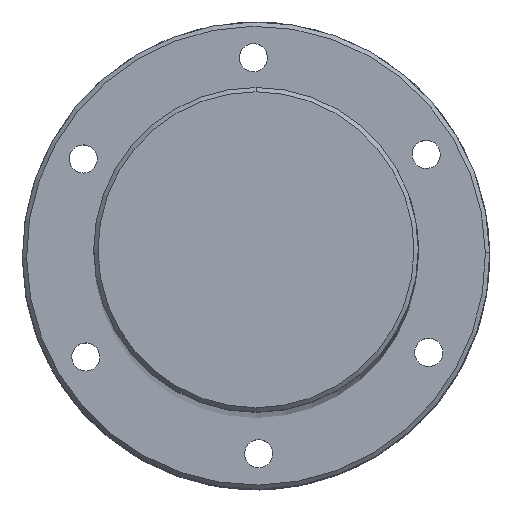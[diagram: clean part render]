
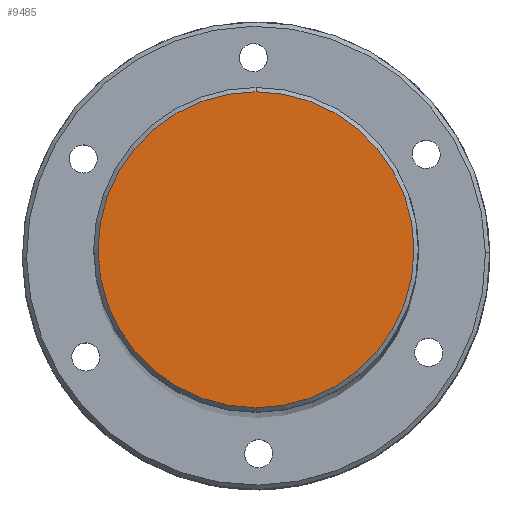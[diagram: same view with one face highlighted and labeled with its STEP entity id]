
A CAD part, top view. The second image highlights one B-rep face of the part: STEP entity #9485.
In plain terms, the highlighted planar face has unit normal (0, 0, 1) as drawn and (-1, 0, 0) by its records, which use the part's own axes.
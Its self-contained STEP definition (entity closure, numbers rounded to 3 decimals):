
#489 = DIRECTION ( 'NONE',  ( -1., 0., 0. ) ) ;
#959 = DIRECTION ( 'NONE',  ( 1., 0., 0. ) ) ;
#1210 = AXIS2_PLACEMENT_3D ( 'NONE', #13147, #489, #13652 ) ;
#3961 = CARTESIAN_POINT ( 'NONE',  ( 0., 0., 0. ) ) ;
#4997 = EDGE_LOOP ( 'NONE', ( #11663, #12081 ) ) ;
#6850 = AXIS2_PLACEMENT_3D ( 'NONE', #10245, #12835, #11648 ) ;
#8320 = CIRCLE ( 'NONE', #1210, 36.5 ) ;
#9107 = VERTEX_POINT ( 'NONE', #10869 ) ;
#9471 = FACE_OUTER_BOUND ( 'NONE', #4997, .T. ) ;
#9485 = ADVANCED_FACE ( 'NONE', ( #9471 ), #15823, .F. ) ;
#9904 = CARTESIAN_POINT ( 'NONE',  ( 0., 0., 36.5 ) ) ;
#10050 = AXIS2_PLACEMENT_3D ( 'NONE', #3961, #959, #14813 ) ;
#10245 = CARTESIAN_POINT ( 'NONE',  ( 0., 0., 0. ) ) ;
#10702 = EDGE_CURVE ( 'NONE', #16679, #9107, #8320, .T. ) ;
#10869 = CARTESIAN_POINT ( 'NONE',  ( 0., 0., -36.5 ) ) ;
#11648 = DIRECTION ( 'NONE',  ( 0., 0., -1. ) ) ;
#11663 = ORIENTED_EDGE ( 'NONE', *, *, #13961, .T. ) ;
#12081 = ORIENTED_EDGE ( 'NONE', *, *, #10702, .T. ) ;
#12835 = DIRECTION ( 'NONE',  ( -1., 0., 0. ) ) ;
#13147 = CARTESIAN_POINT ( 'NONE',  ( 0., 0., 0. ) ) ;
#13652 = DIRECTION ( 'NONE',  ( 0., 0., -1. ) ) ;
#13961 = EDGE_CURVE ( 'NONE', #9107, #16679, #15196, .T. ) ;
#14813 = DIRECTION ( 'NONE',  ( 0., 0., -1. ) ) ;
#15196 = CIRCLE ( 'NONE', #6850, 36.5 ) ;
#15823 = PLANE ( 'NONE',  #10050 ) ;
#16679 = VERTEX_POINT ( 'NONE', #9904 ) ;
